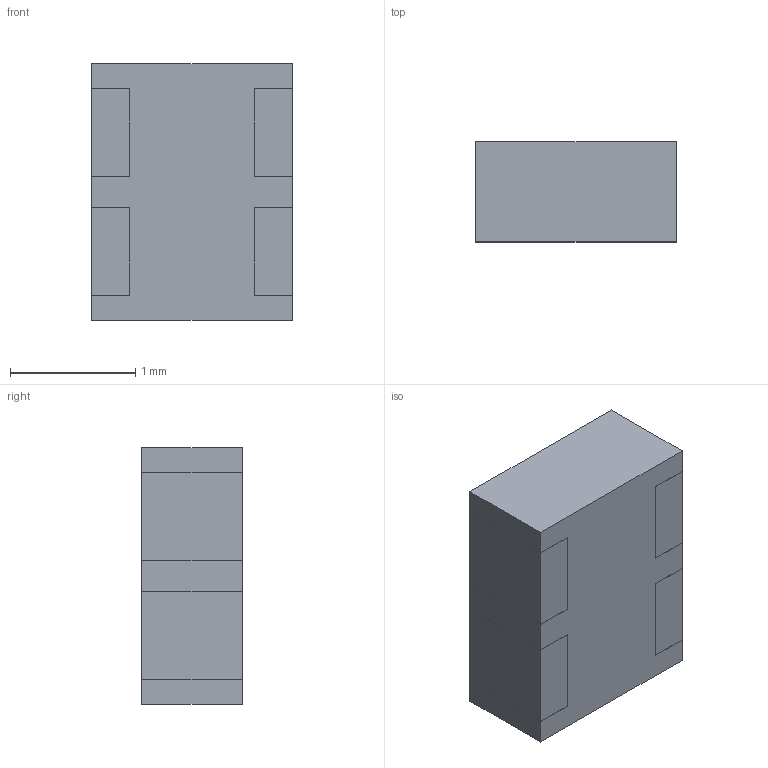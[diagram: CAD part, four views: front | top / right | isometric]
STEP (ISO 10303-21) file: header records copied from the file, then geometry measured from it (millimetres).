
FILE_DESCRIPTION (( 'STEP AP214' ), '1' );
FILE_NAME ( 'DIOSC95P205X160X80-4.STEP', '2014-04-11T12:31:21', ( '' ), ( '' ), 'FPX Expert 2013', 'PCB Libraries', '' );
FILE_SCHEMA (( 'AUTOMOTIVE_DESIGN' ));
Length unit declared in the file: millimetre
Products named in the file (1): DIOSC95P205X160X80-4
Bounding box: 1.6 x 0.8 x 2.05 mm (x, y, z)
Volume: 2.6 mm3; surface area: 20.3 mm2
Topology: 5 solids, 5 shells, 46 faces, 108 edges, 72 vertices
Faces by surface type: plane 46
Entity records: 1494 total; most frequent: CARTESIAN_POINT 227, ORIENTED_EDGE 216, DIRECTION 202, VECTOR 108, LINE 108, EDGE_CURVE 108, VERTEX_POINT 72, STYLED_ITEM 52
